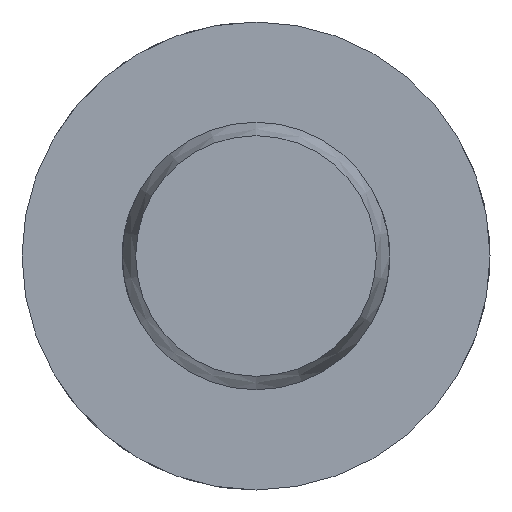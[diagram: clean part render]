
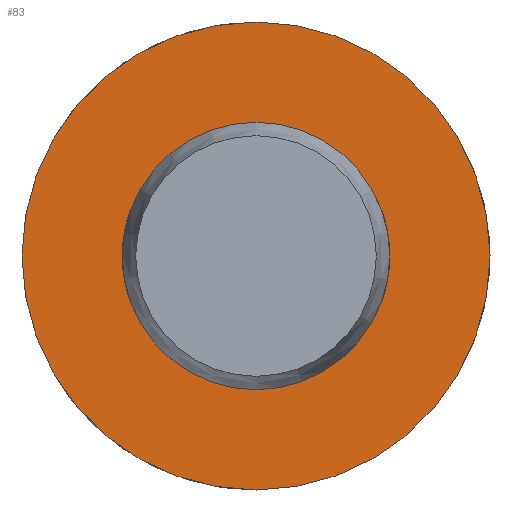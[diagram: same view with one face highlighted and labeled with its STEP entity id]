
A CAD part, left-side view. The second image highlights one B-rep face of the part: STEP entity #83.
In plain terms, the highlighted planar face has unit normal (-1, 0, 0).
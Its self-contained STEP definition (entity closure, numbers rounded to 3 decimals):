
#83 = ADVANCED_FACE( '', ( #128, #129 ), #130, .F. );
#128 = FACE_OUTER_BOUND( '', #204, .T. );
#129 = FACE_BOUND( '', #205, .T. );
#130 = PLANE( '', #206 );
#204 = EDGE_LOOP( '', ( #318 ) );
#205 = EDGE_LOOP( '', ( #319 ) );
#206 = AXIS2_PLACEMENT_3D( '', #320, #321, #322 );
#318 = ORIENTED_EDGE( '', *, *, #481, .F. );
#319 = ORIENTED_EDGE( '', *, *, #471, .T. );
#320 = CARTESIAN_POINT( '', ( 23.2, 4., 0. ) );
#321 = DIRECTION( '', ( 1., 0., 0. ) );
#322 = DIRECTION( '', ( 0., 0., -1. ) );
#471 = EDGE_CURVE( '', #541, #541, #542, .T. );
#481 = EDGE_CURVE( '', #559, #559, #560, .T. );
#541 = VERTEX_POINT( '', #726 );
#542 = CIRCLE( '', #727, 4. );
#559 = VERTEX_POINT( '', #861 );
#560 = CIRCLE( '', #862, 7. );
#726 = CARTESIAN_POINT( '', ( 23.2, 0., -4. ) );
#727 = AXIS2_PLACEMENT_3D( '', #923, #924, #925 );
#861 = CARTESIAN_POINT( '', ( 23.2, 0., -7. ) );
#862 = AXIS2_PLACEMENT_3D( '', #944, #945, #946 );
#923 = CARTESIAN_POINT( '', ( 23.2, 0., 0. ) );
#924 = DIRECTION( '', ( 1., 0., 0. ) );
#925 = DIRECTION( '', ( 0., 0., -1. ) );
#944 = CARTESIAN_POINT( '', ( 23.2, 0., 0. ) );
#945 = DIRECTION( '', ( 1., 0., 0. ) );
#946 = DIRECTION( '', ( 0., 0., -1. ) );
